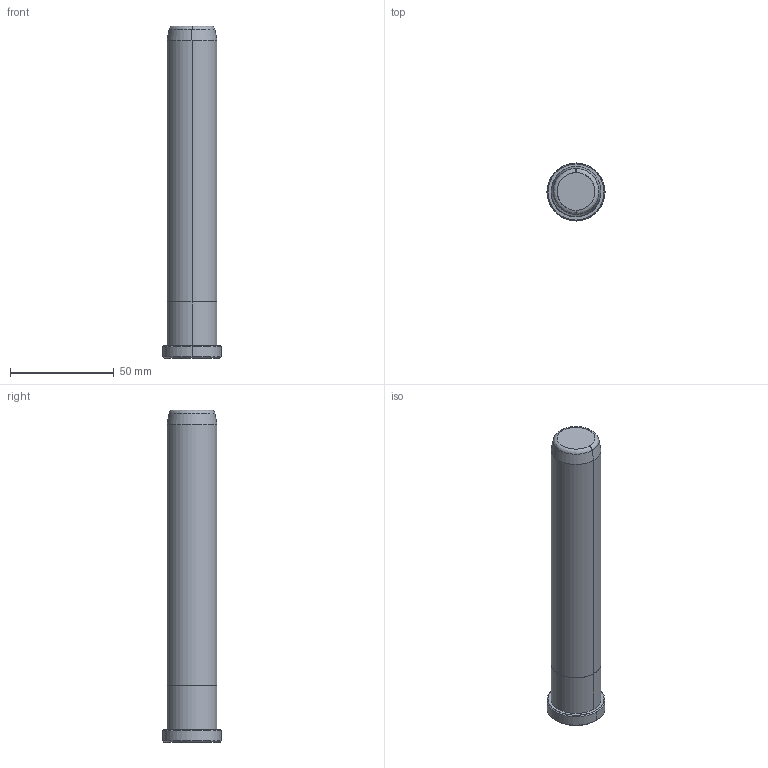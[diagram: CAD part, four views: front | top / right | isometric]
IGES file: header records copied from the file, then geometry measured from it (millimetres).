
Start section: START RECORD GO HERE.
Global section: file name: B82824160.igs; native system: DASSAULT SYSTEMES CATIA V5 R20 - www.3ds.com; preprocessor: CATIA Version 5 Release 20 ; author: Utente; organization: NB04-ASUS; date: 20200419.173457; units: millimetre
Bounding box: 28 x 28 x 160 mm (x, y, z)
Surface area: 13172.6 mm2 (no closed solid volume)
Topology: 0 solids, 0 shells, 20 faces, 80 edges, 80 vertices
Faces by surface type: revolution 16, plane 4
